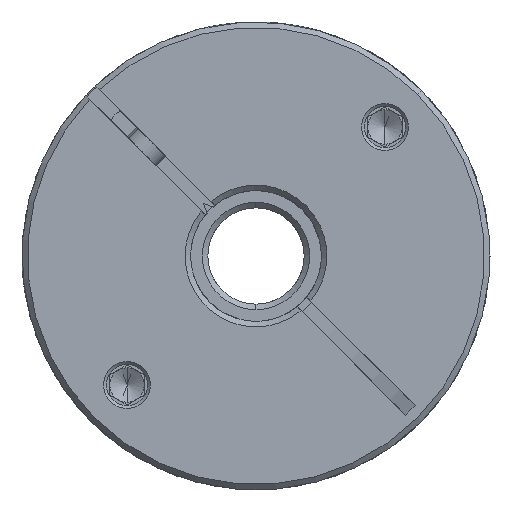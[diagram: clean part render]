
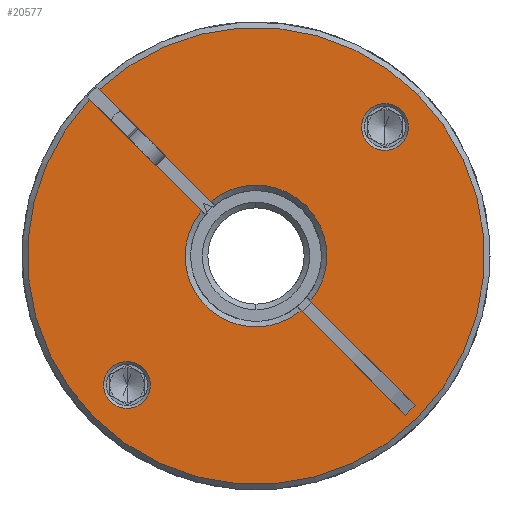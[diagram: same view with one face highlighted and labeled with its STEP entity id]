
A CAD part, front view. The second image highlights one B-rep face of the part: STEP entity #20577.
In plain terms, the highlighted planar face has unit normal (0, -1, 0).
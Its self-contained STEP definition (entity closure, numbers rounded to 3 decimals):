
#32 = EDGE_LOOP ( 'NONE', ( #9262, #1024 ) ) ;
#141 = EDGE_LOOP ( 'NONE', ( #17476, #15581, #2777, #21286, #16162, #5727, #1137, #13389, #19298, #2709, #11321 ) ) ;
#605 = DIRECTION ( 'NONE',  ( 0.707, 0., 0.707 ) ) ;
#1024 = ORIENTED_EDGE ( 'NONE', *, *, #9695, .T. ) ;
#1137 = ORIENTED_EDGE ( 'NONE', *, *, #12696, .T. ) ;
#1480 = DIRECTION ( 'NONE',  ( 0.707, 0., 0.707 ) ) ;
#1526 = CIRCLE ( 'NONE', #8531, 33.2 ) ;
#2195 = CIRCLE ( 'NONE', #7589, 3.4 ) ;
#2356 = CARTESIAN_POINT ( 'NONE',  ( 3.807, -67.045, 60.044 ) ) ;
#2450 = CIRCLE ( 'NONE', #13237, 10.3 ) ;
#2567 = VERTEX_POINT ( 'NONE', #9404 ) ;
#2709 = ORIENTED_EDGE ( 'NONE', *, *, #12481, .F. ) ;
#2777 = ORIENTED_EDGE ( 'NONE', *, *, #16499, .T. ) ;
#3194 = DIRECTION ( 'NONE',  ( 0.707, 0., -0.707 ) ) ;
#3313 = CARTESIAN_POINT ( 'NONE',  ( -26.908, -67.045, 90.758 ) ) ;
#3339 = CARTESIAN_POINT ( 'NONE',  ( 20.402, -67.045, 46.277 ) ) ;
#3385 = CIRCLE ( 'NONE', #14807, 33.2 ) ;
#3561 = AXIS2_PLACEMENT_3D ( 'NONE', #15628, #20644, #605 ) ;
#3734 = DIRECTION ( 'NONE',  ( 0.707, 0., -0.707 ) ) ;
#3823 = LINE ( 'NONE', #13297, #9374 ) ;
#3920 = EDGE_LOOP ( 'NONE', ( #14708, #16333 ) ) ;
#3933 = LINE ( 'NONE', #4058, #7921 ) ;
#4058 = CARTESIAN_POINT ( 'NONE',  ( -2.028, -67.045, 68.707 ) ) ;
#4069 = EDGE_CURVE ( 'NONE', #11591, #19716, #13003, .T. ) ;
#4473 = CARTESIAN_POINT ( 'NONE',  ( -25.493, -67.045, 92.172 ) ) ;
#4780 = EDGE_CURVE ( 'NONE', #13909, #11430, #2450, .T. ) ;
#4838 = CARTESIAN_POINT ( 'NONE',  ( -2.735, -67.045, 68. ) ) ;
#4956 = DIRECTION ( 'NONE',  ( 0., 1., 0. ) ) ;
#5129 = DIRECTION ( 'NONE',  ( 0.707, 0., 0.707 ) ) ;
#5155 = VERTEX_POINT ( 'NONE', #13916 ) ;
#5331 = DIRECTION ( 'NONE',  ( 0.707, 0., 0.707 ) ) ;
#5351 = EDGE_CURVE ( 'NONE', #2567, #19950, #2195, .T. ) ;
#5642 = EDGE_CURVE ( 'NONE', #9961, #11430, #17944, .T. ) ;
#5727 = ORIENTED_EDGE ( 'NONE', *, *, #6896, .T. ) ;
#6293 = DIRECTION ( 'NONE',  ( 0.707, 0., -0.707 ) ) ;
#6686 = CARTESIAN_POINT ( 'NONE',  ( -21.473, -67.045, 49.262 ) ) ;
#6896 = EDGE_CURVE ( 'NONE', #5155, #10895, #16051, .T. ) ;
#7297 = CARTESIAN_POINT ( 'NONE',  ( 13.599, -67.045, 84.334 ) ) ;
#7449 = VECTOR ( 'NONE', #6293, 1000. ) ;
#7589 = AXIS2_PLACEMENT_3D ( 'NONE', #10116, #18158, #8788 ) ;
#7921 = VECTOR ( 'NONE', #14395, 1000. ) ;
#8263 = EDGE_CURVE ( 'NONE', #11310, #17755, #20937, .T. ) ;
#8484 = DIRECTION ( 'NONE',  ( -0.707, 0., -0.707 ) ) ;
#8531 = AXIS2_PLACEMENT_3D ( 'NONE', #20503, #16931, #18721 ) ;
#8536 = DIRECTION ( 'NONE',  ( 0., 1., 0. ) ) ;
#8636 = FACE_OUTER_BOUND ( 'NONE', #141, .T. ) ;
#8788 = DIRECTION ( 'NONE',  ( 0.707, 0., 0.707 ) ) ;
#8799 = DIRECTION ( 'NONE',  ( 0., 1., 0. ) ) ;
#8897 = DIRECTION ( 'NONE',  ( 0., 1., 0. ) ) ;
#9077 = AXIS2_PLACEMENT_3D ( 'NONE', #4838, #13473, #11691 ) ;
#9262 = ORIENTED_EDGE ( 'NONE', *, *, #4069, .T. ) ;
#9359 = DIRECTION ( 'NONE',  ( 0., -1., 0. ) ) ;
#9374 = VECTOR ( 'NONE', #3194, 1000. ) ;
#9404 = CARTESIAN_POINT ( 'NONE',  ( -23.878, -67.045, 46.858 ) ) ;
#9663 = DIRECTION ( 'NONE',  ( 0., 1., 0. ) ) ;
#9677 = VECTOR ( 'NONE', #8484, 1000. ) ;
#9695 = EDGE_CURVE ( 'NONE', #19716, #11591, #18499, .T. ) ;
#9961 = VERTEX_POINT ( 'NONE', #3313 ) ;
#10116 = CARTESIAN_POINT ( 'NONE',  ( -21.473, -67.045, 49.262 ) ) ;
#10220 = FACE_BOUND ( 'NONE', #32, .T. ) ;
#10855 = CARTESIAN_POINT ( 'NONE',  ( 18.988, -67.045, 44.862 ) ) ;
#10895 = VERTEX_POINT ( 'NONE', #12595 ) ;
#10910 = AXIS2_PLACEMENT_3D ( 'NONE', #16593, #11458, #1480 ) ;
#11290 = AXIS2_PLACEMENT_3D ( 'NONE', #18790, #8799, #5331 ) ;
#11310 = VERTEX_POINT ( 'NONE', #3339 ) ;
#11321 = ORIENTED_EDGE ( 'NONE', *, *, #4780, .T. ) ;
#11430 = VERTEX_POINT ( 'NONE', #12107 ) ;
#11458 = DIRECTION ( 'NONE',  ( 0., -1., 0. ) ) ;
#11524 = PLANE ( 'NONE',  #10910 ) ;
#11569 = VERTEX_POINT ( 'NONE', #15777 ) ;
#11591 = VERTEX_POINT ( 'NONE', #20725 ) ;
#11691 = DIRECTION ( 'NONE',  ( 0.707, 0., 0.707 ) ) ;
#11842 = CARTESIAN_POINT ( 'NONE',  ( -26.211, -67.045, 44.524 ) ) ;
#11900 = AXIS2_PLACEMENT_3D ( 'NONE', #6686, #8536, #5129 ) ;
#12107 = CARTESIAN_POINT ( 'NONE',  ( -10.691, -67.045, 74.542 ) ) ;
#12318 = FACE_BOUND ( 'NONE', #3920, .T. ) ;
#12481 = EDGE_CURVE ( 'NONE', #13909, #17755, #3823, .T. ) ;
#12499 = EDGE_CURVE ( 'NONE', #20686, #19513, #1526, .T. ) ;
#12595 = CARTESIAN_POINT ( 'NONE',  ( 4.548, -67.045, 75.283 ) ) ;
#12696 = EDGE_CURVE ( 'NONE', #10895, #11569, #14120, .T. ) ;
#12835 = CARTESIAN_POINT ( 'NONE',  ( -2.735, -67.045, 68. ) ) ;
#13003 = CIRCLE ( 'NONE', #18342, 3.4 ) ;
#13237 = AXIS2_PLACEMENT_3D ( 'NONE', #12835, #9663, #14532 ) ;
#13297 = CARTESIAN_POINT ( 'NONE',  ( -3.442, -67.045, 67.293 ) ) ;
#13389 = ORIENTED_EDGE ( 'NONE', *, *, #17878, .T. ) ;
#13473 = DIRECTION ( 'NONE',  ( 0., -1., 0. ) ) ;
#13505 = LINE ( 'NONE', #20596, #7449 ) ;
#13703 = VERTEX_POINT ( 'NONE', #11842 ) ;
#13754 = VECTOR ( 'NONE', #3734, 1000. ) ;
#13909 = VERTEX_POINT ( 'NONE', #2356 ) ;
#13916 = CARTESIAN_POINT ( 'NONE',  ( -9.277, -67.045, 75.956 ) ) ;
#13972 = DIRECTION ( 'NONE',  ( 0.707, 0., 0.707 ) ) ;
#14120 = CIRCLE ( 'NONE', #3561, 10.3 ) ;
#14154 = CARTESIAN_POINT ( 'NONE',  ( -2.735, -67.045, 68. ) ) ;
#14395 = DIRECTION ( 'NONE',  ( 0.707, 0., -0.707 ) ) ;
#14532 = DIRECTION ( 'NONE',  ( 0.707, 0., 0.707 ) ) ;
#14651 = CARTESIAN_POINT ( 'NONE',  ( -19.069, -67.045, 51.666 ) ) ;
#14708 = ORIENTED_EDGE ( 'NONE', *, *, #21167, .T. ) ;
#14807 = AXIS2_PLACEMENT_3D ( 'NONE', #14154, #9359, #19081 ) ;
#15581 = ORIENTED_EDGE ( 'NONE', *, *, #20038, .T. ) ;
#15628 = CARTESIAN_POINT ( 'NONE',  ( -2.735, -67.045, 68. ) ) ;
#15748 = CARTESIAN_POINT ( 'NONE',  ( -3.442, -67.045, 67.293 ) ) ;
#15777 = CARTESIAN_POINT ( 'NONE',  ( 5.221, -67.045, 61.458 ) ) ;
#15949 = CARTESIAN_POINT ( 'NONE',  ( -2.735, -67.045, 68. ) ) ;
#16051 = CIRCLE ( 'NONE', #18813, 10.3 ) ;
#16055 = EDGE_CURVE ( 'NONE', #19513, #5155, #3933, .T. ) ;
#16162 = ORIENTED_EDGE ( 'NONE', *, *, #16055, .T. ) ;
#16333 = ORIENTED_EDGE ( 'NONE', *, *, #5351, .T. ) ;
#16499 = EDGE_CURVE ( 'NONE', #13703, #20686, #3385, .T. ) ;
#16592 = DIRECTION ( 'NONE',  ( 0.707, 0., 0.707 ) ) ;
#16593 = CARTESIAN_POINT ( 'NONE',  ( -2.735, -67.045, 68. ) ) ;
#16931 = DIRECTION ( 'NONE',  ( 0., -1., 0. ) ) ;
#17476 = ORIENTED_EDGE ( 'NONE', *, *, #5642, .F. ) ;
#17755 = VERTEX_POINT ( 'NONE', #10855 ) ;
#17878 = EDGE_CURVE ( 'NONE', #11569, #11310, #13505, .T. ) ;
#17944 = LINE ( 'NONE', #15748, #13754 ) ;
#18158 = DIRECTION ( 'NONE',  ( 0., 1., 0. ) ) ;
#18342 = AXIS2_PLACEMENT_3D ( 'NONE', #21616, #4956, #16592 ) ;
#18419 = CARTESIAN_POINT ( 'NONE',  ( 18.988, -67.045, 44.862 ) ) ;
#18499 = CIRCLE ( 'NONE', #11290, 3.4 ) ;
#18510 = CARTESIAN_POINT ( 'NONE',  ( 20.741, -67.045, 91.476 ) ) ;
#18721 = DIRECTION ( 'NONE',  ( 0.707, 0., 0.707 ) ) ;
#18790 = CARTESIAN_POINT ( 'NONE',  ( 16.003, -67.045, 86.738 ) ) ;
#18813 = AXIS2_PLACEMENT_3D ( 'NONE', #15949, #8897, #13972 ) ;
#19081 = DIRECTION ( 'NONE',  ( 0.707, 0., 0.707 ) ) ;
#19298 = ORIENTED_EDGE ( 'NONE', *, *, #8263, .T. ) ;
#19513 = VERTEX_POINT ( 'NONE', #4473 ) ;
#19716 = VERTEX_POINT ( 'NONE', #7297 ) ;
#19950 = VERTEX_POINT ( 'NONE', #14651 ) ;
#20038 = EDGE_CURVE ( 'NONE', #9961, #13703, #21505, .T. ) ;
#20124 = CIRCLE ( 'NONE', #11900, 3.4 ) ;
#20503 = CARTESIAN_POINT ( 'NONE',  ( -2.735, -67.045, 68. ) ) ;
#20577 = ADVANCED_FACE ( 'NONE', ( #10220, #12318, #8636 ), #11524, .T. ) ;
#20596 = CARTESIAN_POINT ( 'NONE',  ( -2.028, -67.045, 68.707 ) ) ;
#20644 = DIRECTION ( 'NONE',  ( 0., 1., 0. ) ) ;
#20686 = VERTEX_POINT ( 'NONE', #18510 ) ;
#20725 = CARTESIAN_POINT ( 'NONE',  ( 18.407, -67.045, 89.142 ) ) ;
#20937 = LINE ( 'NONE', #18419, #9677 ) ;
#21167 = EDGE_CURVE ( 'NONE', #19950, #2567, #20124, .T. ) ;
#21286 = ORIENTED_EDGE ( 'NONE', *, *, #12499, .T. ) ;
#21505 = CIRCLE ( 'NONE', #9077, 33.2 ) ;
#21616 = CARTESIAN_POINT ( 'NONE',  ( 16.003, -67.045, 86.738 ) ) ;
